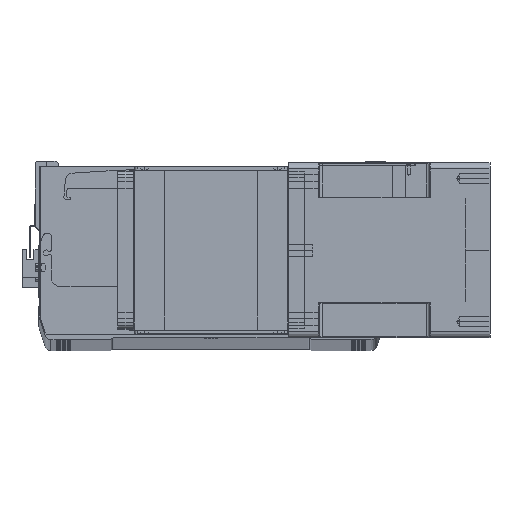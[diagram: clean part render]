
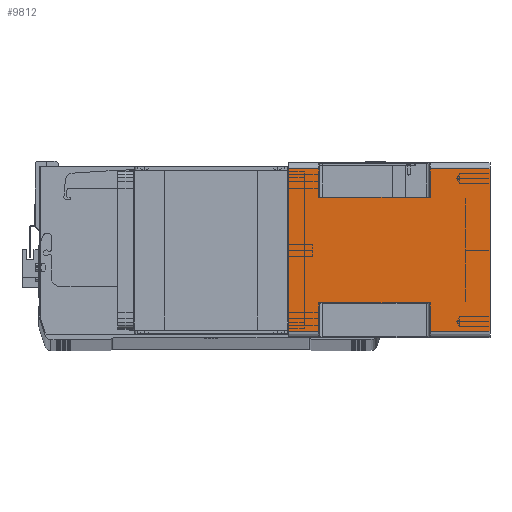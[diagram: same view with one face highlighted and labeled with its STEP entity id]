
A CAD part, top view. The second image highlights one B-rep face of the part: STEP entity #9812.
In plain terms, the highlighted planar face has unit normal (0, 0, 1) as drawn and (1, 0, 0) by its records, which use the part's own axes.
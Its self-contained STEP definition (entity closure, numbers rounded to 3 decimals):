
#248 = CARTESIAN_POINT ( 'NONE',  ( 71., -66., 0. ) ) ;
#790 = ORIENTED_EDGE ( 'NONE', *, *, #31293, .T. ) ;
#1016 = ORIENTED_EDGE ( 'NONE', *, *, #34673, .F. ) ;
#1208 = ORIENTED_EDGE ( 'NONE', *, *, #16500, .T. ) ;
#2114 = DIRECTION ( 'NONE',  ( 0., 0., 1. ) ) ;
#2139 = VECTOR ( 'NONE', #3845, 1000. ) ;
#3845 = DIRECTION ( 'NONE',  ( 0., 0., -1. ) ) ;
#4867 = VERTEX_POINT ( 'NONE', #30163 ) ;
#4937 = CARTESIAN_POINT ( 'NONE',  ( 71., 66., -164. ) ) ;
#5059 = ORIENTED_EDGE ( 'NONE', *, *, #28202, .F. ) ;
#5344 = LINE ( 'NONE', #37574, #8258 ) ;
#6119 = VECTOR ( 'NONE', #31144, 1000. ) ;
#6828 = PLANE ( 'NONE',  #12326 ) ;
#7158 = VERTEX_POINT ( 'NONE', #12281 ) ;
#7529 = EDGE_CURVE ( 'NONE', #7158, #11981, #32296, .T. ) ;
#8056 = CARTESIAN_POINT ( 'NONE',  ( 71., -66., -164. ) ) ;
#8258 = VECTOR ( 'NONE', #34957, 1000. ) ;
#8634 = CARTESIAN_POINT ( 'NONE',  ( 71., -66., -115.5 ) ) ;
#9812 = ADVANCED_FACE ( 'NONE', ( #24038 ), #6828, .T. ) ;
#11946 = LINE ( 'NONE', #38521, #23027 ) ;
#11981 = VERTEX_POINT ( 'NONE', #36821 ) ;
#12281 = CARTESIAN_POINT ( 'NONE',  ( 71., -66., -24.5 ) ) ;
#12326 = AXIS2_PLACEMENT_3D ( 'NONE', #37482, #27980, #25386 ) ;
#12599 = VERTEX_POINT ( 'NONE', #36626 ) ;
#12678 = ORIENTED_EDGE ( 'NONE', *, *, #25528, .T. ) ;
#13485 = EDGE_CURVE ( 'NONE', #4867, #18570, #24742, .T. ) ;
#13685 = CARTESIAN_POINT ( 'NONE',  ( 71., -66., -24.5 ) ) ;
#13845 = CARTESIAN_POINT ( 'NONE',  ( 71., -43., -164. ) ) ;
#14249 = CARTESIAN_POINT ( 'NONE',  ( 71., -66., -164. ) ) ;
#15354 = LINE ( 'NONE', #34685, #20643 ) ;
#16171 = DIRECTION ( 'NONE',  ( 0., 0., 1. ) ) ;
#16500 = EDGE_CURVE ( 'NONE', #33797, #29323, #38909, .T. ) ;
#17534 = CARTESIAN_POINT ( 'NONE',  ( 71., 43., -115.5 ) ) ;
#17977 = VECTOR ( 'NONE', #22363, 1000. ) ;
#18570 = VERTEX_POINT ( 'NONE', #23531 ) ;
#19156 = EDGE_CURVE ( 'NONE', #29323, #31332, #15354, .T. ) ;
#19197 = ORIENTED_EDGE ( 'NONE', *, *, #24664, .T. ) ;
#20605 = ORIENTED_EDGE ( 'NONE', *, *, #31974, .F. ) ;
#20643 = VECTOR ( 'NONE', #16171, 1000. ) ;
#20988 = CARTESIAN_POINT ( 'NONE',  ( 71., -43., -24.5 ) ) ;
#21585 = CARTESIAN_POINT ( 'NONE',  ( 71., -66., -115.5 ) ) ;
#21793 = LINE ( 'NONE', #8056, #38696 ) ;
#21989 = CARTESIAN_POINT ( 'NONE',  ( 71., -66., 0. ) ) ;
#22118 = VECTOR ( 'NONE', #27192, 1000. ) ;
#22363 = DIRECTION ( 'NONE',  ( 0., 1., 0. ) ) ;
#22653 = VERTEX_POINT ( 'NONE', #17534 ) ;
#23027 = VECTOR ( 'NONE', #38797, 1000. ) ;
#23531 = CARTESIAN_POINT ( 'NONE',  ( 71., 66., -115.5 ) ) ;
#23777 = VECTOR ( 'NONE', #26495, 1000. ) ;
#24038 = FACE_OUTER_BOUND ( 'NONE', #25669, .T. ) ;
#24664 = EDGE_CURVE ( 'NONE', #26037, #4867, #31976, .T. ) ;
#24742 = LINE ( 'NONE', #4937, #23777 ) ;
#25274 = EDGE_CURVE ( 'NONE', #26037, #37873, #21793, .T. ) ;
#25386 = DIRECTION ( 'NONE',  ( 0., 1., 0. ) ) ;
#25508 = LINE ( 'NONE', #8634, #32791 ) ;
#25528 = EDGE_CURVE ( 'NONE', #18570, #22653, #5344, .T. ) ;
#25669 = EDGE_LOOP ( 'NONE', ( #20605, #790, #32276, #19197, #27419, #12678, #5059, #1208, #37721, #1016, #29966, #31894 ) ) ;
#25994 = CARTESIAN_POINT ( 'NONE',  ( 71., 66., -24.5 ) ) ;
#26037 = VERTEX_POINT ( 'NONE', #14249 ) ;
#26339 = DIRECTION ( 'NONE',  ( 0., 1., 0. ) ) ;
#26495 = DIRECTION ( 'NONE',  ( 0., 0., 1. ) ) ;
#26754 = DIRECTION ( 'NONE',  ( 0., 0., 1. ) ) ;
#27192 = DIRECTION ( 'NONE',  ( 0., 1., 0. ) ) ;
#27419 = ORIENTED_EDGE ( 'NONE', *, *, #13485, .T. ) ;
#27980 = DIRECTION ( 'NONE',  ( 1., 0., 0. ) ) ;
#28182 = CARTESIAN_POINT ( 'NONE',  ( 71., -66., -164. ) ) ;
#28202 = EDGE_CURVE ( 'NONE', #33797, #22653, #33517, .T. ) ;
#28767 = CARTESIAN_POINT ( 'NONE',  ( 71., 43., -164. ) ) ;
#29323 = VERTEX_POINT ( 'NONE', #25994 ) ;
#29966 = ORIENTED_EDGE ( 'NONE', *, *, #34156, .F. ) ;
#30129 = CARTESIAN_POINT ( 'NONE',  ( 71., 43., -24.5 ) ) ;
#30163 = CARTESIAN_POINT ( 'NONE',  ( 71., 66., -164. ) ) ;
#30249 = VERTEX_POINT ( 'NONE', #21989 ) ;
#31144 = DIRECTION ( 'NONE',  ( 0., 1., 0. ) ) ;
#31293 = EDGE_CURVE ( 'NONE', #12599, #37873, #25508, .T. ) ;
#31332 = VERTEX_POINT ( 'NONE', #35073 ) ;
#31894 = ORIENTED_EDGE ( 'NONE', *, *, #7529, .T. ) ;
#31974 = EDGE_CURVE ( 'NONE', #12599, #11981, #32703, .T. ) ;
#31976 = LINE ( 'NONE', #28182, #17977 ) ;
#32103 = VECTOR ( 'NONE', #26339, 1000. ) ;
#32276 = ORIENTED_EDGE ( 'NONE', *, *, #25274, .F. ) ;
#32296 = LINE ( 'NONE', #20988, #22118 ) ;
#32703 = LINE ( 'NONE', #13845, #35105 ) ;
#32791 = VECTOR ( 'NONE', #36293, 1000. ) ;
#33517 = LINE ( 'NONE', #28767, #2139 ) ;
#33797 = VERTEX_POINT ( 'NONE', #30129 ) ;
#34156 = EDGE_CURVE ( 'NONE', #7158, #30249, #11946, .T. ) ;
#34673 = EDGE_CURVE ( 'NONE', #30249, #31332, #38498, .T. ) ;
#34685 = CARTESIAN_POINT ( 'NONE',  ( 71., 66., -164. ) ) ;
#34957 = DIRECTION ( 'NONE',  ( 0., -1., 0. ) ) ;
#35073 = CARTESIAN_POINT ( 'NONE',  ( 71., 66., 0. ) ) ;
#35105 = VECTOR ( 'NONE', #2114, 1000. ) ;
#36293 = DIRECTION ( 'NONE',  ( 0., -1., 0. ) ) ;
#36626 = CARTESIAN_POINT ( 'NONE',  ( 71., -43., -115.5 ) ) ;
#36821 = CARTESIAN_POINT ( 'NONE',  ( 71., -43., -24.5 ) ) ;
#37482 = CARTESIAN_POINT ( 'NONE',  ( 71., -66., -164. ) ) ;
#37574 = CARTESIAN_POINT ( 'NONE',  ( 71., 43., -115.5 ) ) ;
#37721 = ORIENTED_EDGE ( 'NONE', *, *, #19156, .T. ) ;
#37873 = VERTEX_POINT ( 'NONE', #21585 ) ;
#38498 = LINE ( 'NONE', #248, #6119 ) ;
#38521 = CARTESIAN_POINT ( 'NONE',  ( 71., -66., -164. ) ) ;
#38696 = VECTOR ( 'NONE', #26754, 1000. ) ;
#38797 = DIRECTION ( 'NONE',  ( 0., 0., 1. ) ) ;
#38909 = LINE ( 'NONE', #13685, #32103 ) ;
